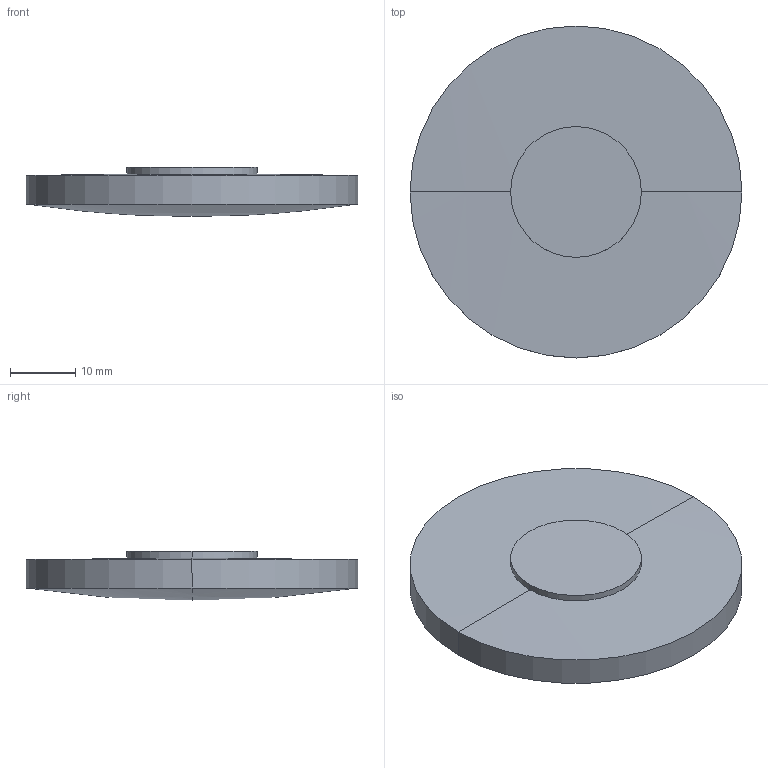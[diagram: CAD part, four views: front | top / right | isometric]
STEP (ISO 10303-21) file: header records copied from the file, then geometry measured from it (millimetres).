
FILE_DESCRIPTION(('STEP AP214'),'1');
FILE_NAME('LLV-51300.STEP','2020-03-09T17:42:27',(' '),(' '),'Spatial InterOp 3D',' ',' ');
FILE_SCHEMA(('AUTOMOTIVE_DESIGN { 1 0 10303 214 1 1 1 1 }'));
Length unit declared in the file: millimetre
Products named in the file (1): 1
Bounding box: 50.8 x 50.8 x 7.5 mm (x, y, z)
Volume: 11322.4 mm3; surface area: 5452.1 mm2
Topology: 2 solids, 2 shells, 10 faces, 20 edges, 10 vertices
Faces by surface type: sphere 4, cylinder 4, plane 2
Entity records: 255 total; most frequent: DIRECTION 52, CARTESIAN_POINT 38, ORIENTED_EDGE 32, AXIS2_PLACEMENT_3D 24, EDGE_CURVE 16, CIRCLE 12, ADVANCED_FACE 10, FACE_OUTER_BOUND 10
